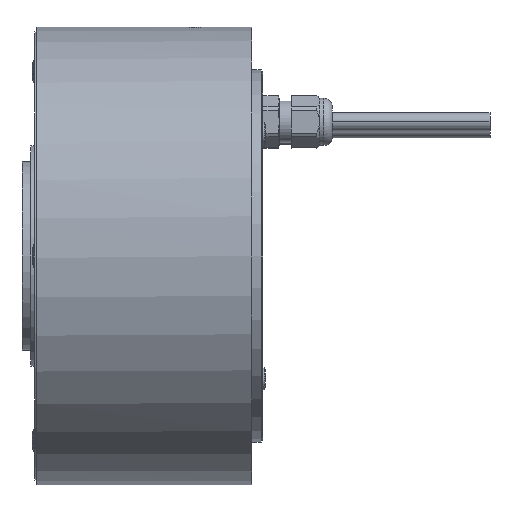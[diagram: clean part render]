
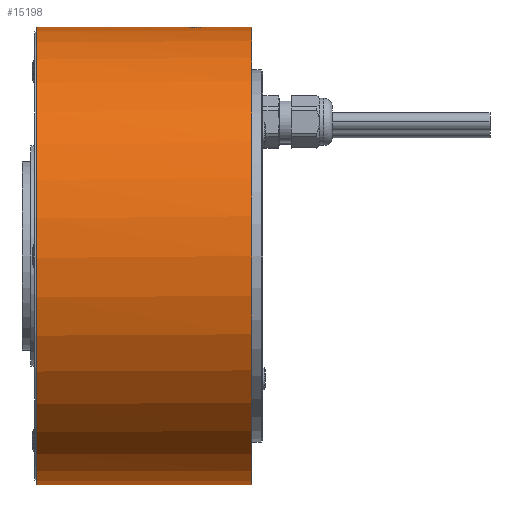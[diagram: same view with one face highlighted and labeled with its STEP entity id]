
A CAD part, left-side view. The second image highlights one B-rep face of the part: STEP entity #15198.
In plain terms, the highlighted cylindrical face has radius 72.5 mm (diameter 145 mm), a partial arc.
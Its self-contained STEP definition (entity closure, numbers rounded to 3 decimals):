
#20 = CARTESIAN_POINT ( 'NONE',  ( -1.703, -47.249, 72.48 ) ) ;
#139 = DIRECTION ( 'NONE',  ( 0., 0., 1. ) ) ;
#195 = CARTESIAN_POINT ( 'NONE',  ( -2.705, -52.272, 72.45 ) ) ;
#629 = AXIS2_PLACEMENT_3D ( 'NONE', #19944, #14770, #14653 ) ;
#1084 = CARTESIAN_POINT ( 'NONE',  ( -1.25, -0.2, 72.489 ) ) ;
#1653 = CARTESIAN_POINT ( 'NONE',  ( -2.247, -47.638, 72.465 ) ) ;
#1673 = ORIENTED_EDGE ( 'NONE', *, *, #17988, .T. ) ;
#2012 = VERTEX_POINT ( 'NONE', #21359 ) ;
#2189 = CARTESIAN_POINT ( 'NONE',  ( 0., -71.2, 0. ) ) ;
#2298 = VERTEX_POINT ( 'NONE', #8170 ) ;
#2829 = VERTEX_POINT ( 'NONE', #12028 ) ;
#3032 = ORIENTED_EDGE ( 'NONE', *, *, #3521, .F. ) ;
#3221 = ORIENTED_EDGE ( 'NONE', *, *, #17998, .F. ) ;
#3246 = CARTESIAN_POINT ( 'NONE',  ( -0.222, -46.8, 72.5 ) ) ;
#3327 = CARTESIAN_POINT ( 'NONE',  ( -2.562, -52.447, 72.455 ) ) ;
#3461 = CARTESIAN_POINT ( 'NONE',  ( -0.881, -46.909, 72.495 ) ) ;
#3521 = EDGE_CURVE ( 'NONE', #6247, #2829, #14882, .T. ) ;
#3670 = CARTESIAN_POINT ( 'NONE',  ( -2.951, -48.497, 72.44 ) ) ;
#4209 = AXIS2_PLACEMENT_3D ( 'NONE', #11528, #6767, #18329 ) ;
#4364 = ORIENTED_EDGE ( 'NONE', *, *, #9172, .T. ) ;
#4955 = CARTESIAN_POINT ( 'NONE',  ( -2.56, -47.952, 72.455 ) ) ;
#4978 = LINE ( 'NONE', #13425, #9918 ) ;
#5040 = CARTESIAN_POINT ( 'NONE',  ( -2.077, -52.901, 72.47 ) ) ;
#5415 = DIRECTION ( 'NONE',  ( 0., 1., 0. ) ) ;
#5553 = CARTESIAN_POINT ( 'NONE',  ( 0., -71.2, 72.5 ) ) ;
#5856 = EDGE_CURVE ( 'NONE', #14555, #6247, #9162, .T. ) ;
#6032 = VERTEX_POINT ( 'NONE', #10012 ) ;
#6154 = CARTESIAN_POINT ( 'NONE',  ( -3.292, -51.08, 72.425 ) ) ;
#6247 = VERTEX_POINT ( 'NONE', #13883 ) ;
#6248 = CARTESIAN_POINT ( 'NONE',  ( -3.056, -51.707, 72.436 ) ) ;
#6458 = ORIENTED_EDGE ( 'NONE', *, *, #12098, .T. ) ;
#6692 = CARTESIAN_POINT ( 'NONE',  ( -3.4, -50.2, 72.42 ) ) ;
#6767 = DIRECTION ( 'NONE',  ( 0., 1., 0. ) ) ;
#6906 = CARTESIAN_POINT ( 'NONE',  ( -2.704, -48.127, 72.45 ) ) ;
#7163 = B_SPLINE_CURVE_WITH_KNOTS ( 'NONE', 3,
 ( #18457, #3246, #16414, #3461, #10057, #11873, #20, #9843, #1653, #4955, #6906, #3670, #14997, #16627, #8239, #9963, #8563, #6692 ),
 .UNSPECIFIED., .F., .F.,
 ( 4, 2, 2, 2, 2, 2, 2, 2, 4 ),
 ( 0.011, 0.011, 0.012, 0.013, 0.013, 0.014, 0.015, 0.015, 0.016 ),
 .UNSPECIFIED. ) ;
#7771 = CARTESIAN_POINT ( 'NONE',  ( -3.4, -50.2, 72.42 ) ) ;
#8110 = AXIS2_PLACEMENT_3D ( 'NONE', #14724, #14915, #139 ) ;
#8170 = CARTESIAN_POINT ( 'NONE',  ( 0., -53.6, 72.5 ) ) ;
#8239 = CARTESIAN_POINT ( 'NONE',  ( -3.292, -49.32, 72.425 ) ) ;
#8313 = CARTESIAN_POINT ( 'NONE',  ( 0., -53.6, 72.5 ) ) ;
#8563 = CARTESIAN_POINT ( 'NONE',  ( -3.4, -49.976, 72.42 ) ) ;
#9037 = VERTEX_POINT ( 'NONE', #15889 ) ;
#9162 = LINE ( 'NONE', #14010, #15364 ) ;
#9172 = EDGE_CURVE ( 'NONE', #9037, #9512, #4978, .T. ) ;
#9512 = VERTEX_POINT ( 'NONE', #17010 ) ;
#9801 = ORIENTED_EDGE ( 'NONE', *, *, #20275, .F. ) ;
#9843 = CARTESIAN_POINT ( 'NONE',  ( -2.075, -47.498, 72.471 ) ) ;
#9918 = VECTOR ( 'NONE', #11792, 1000. ) ;
#9963 = CARTESIAN_POINT ( 'NONE',  ( -3.378, -49.755, 72.421 ) ) ;
#10012 = CARTESIAN_POINT ( 'NONE',  ( -1.25, -0.2, 72.489 ) ) ;
#10057 = CARTESIAN_POINT ( 'NONE',  ( -1.096, -46.974, 72.492 ) ) ;
#10593 = EDGE_LOOP ( 'NONE', ( #21081, #9801, #6458, #3221, #14263, #4364, #18337, #1673, #3032 ) ) ;
#10723 = FACE_OUTER_BOUND ( 'NONE', #10593, .T. ) ;
#10907 = LINE ( 'NONE', #1084, #15375 ) ;
#10950 = VECTOR ( 'NONE', #17453, 1000. ) ;
#11024 = DIRECTION ( 'NONE',  ( 0., 1., 0. ) ) ;
#11442 = CARTESIAN_POINT ( 'NONE',  ( -1.508, -53.255, 72.485 ) ) ;
#11528 = CARTESIAN_POINT ( 'NONE',  ( 0., 0., 0. ) ) ;
#11662 = CARTESIAN_POINT ( 'NONE',  ( -0.895, -53.51, 72.496 ) ) ;
#11792 = DIRECTION ( 'NONE',  ( 0., 1., 0. ) ) ;
#11873 = CARTESIAN_POINT ( 'NONE',  ( -1.505, -47.143, 72.485 ) ) ;
#11932 = CARTESIAN_POINT ( 'NONE',  ( 0., -68.2, 72.5 ) ) ;
#12028 = CARTESIAN_POINT ( 'NONE',  ( -1.25, 0., 72.489 ) ) ;
#12029 = DIRECTION ( 'NONE',  ( 0., 0., 1. ) ) ;
#12098 = EDGE_CURVE ( 'NONE', #16923, #2298, #17345, .T. ) ;
#12278 = DIRECTION ( 'NONE',  ( 0., 1., 0. ) ) ;
#12617 = EDGE_CURVE ( 'NONE', #6032, #9512, #18793, .T. ) ;
#12798 = CARTESIAN_POINT ( 'NONE',  ( 0., -68.2, -72.5 ) ) ;
#12836 = CARTESIAN_POINT ( 'NONE',  ( -2.951, -51.902, 72.44 ) ) ;
#13425 = CARTESIAN_POINT ( 'NONE',  ( 0., -71.2, 72.5 ) ) ;
#13883 = CARTESIAN_POINT ( 'NONE',  ( 0., 0., -72.5 ) ) ;
#14010 = CARTESIAN_POINT ( 'NONE',  ( 0., -71.2, -72.5 ) ) ;
#14070 = CYLINDRICAL_SURFACE ( 'NONE', #17741, 72.5 ) ;
#14263 = ORIENTED_EDGE ( 'NONE', *, *, #16018, .F. ) ;
#14352 = CARTESIAN_POINT ( 'NONE',  ( -3.4, -50.424, 72.42 ) ) ;
#14555 = VERTEX_POINT ( 'NONE', #12798 ) ;
#14653 = DIRECTION ( 'NONE',  ( 0., 0., -1. ) ) ;
#14724 = CARTESIAN_POINT ( 'NONE',  ( 0., -0.2, 0. ) ) ;
#14770 = DIRECTION ( 'NONE',  ( 0., -1., 0. ) ) ;
#14882 = CIRCLE ( 'NONE', #4209, 72.5 ) ;
#14915 = DIRECTION ( 'NONE',  ( 0., 1., 0. ) ) ;
#14997 = CARTESIAN_POINT ( 'NONE',  ( -3.055, -48.692, 72.436 ) ) ;
#15009 = B_SPLINE_CURVE_WITH_KNOTS ( 'NONE', 3,
 ( #7771, #14352, #20951, #6154, #21047, #6248, #12836, #195, #3327, #16607, #5040, #18238, #11442, #11662, #19958, #8313 ),
 .UNSPECIFIED., .F., .F.,
 ( 4, 2, 2, 2, 2, 2, 2, 4 ),
 ( 0.016, 0.017, 0.017, 0.018, 0.019, 0.019, 0.02, 0.021 ),
 .UNSPECIFIED. ) ;
#15198 = ADVANCED_FACE ( 'NONE', ( #10723 ), #14070, .T. ) ;
#15364 = VECTOR ( 'NONE', #12278, 1000. ) ;
#15375 = VECTOR ( 'NONE', #11024, 1000. ) ;
#15889 = CARTESIAN_POINT ( 'NONE',  ( 0., -46.8, 72.5 ) ) ;
#16018 = EDGE_CURVE ( 'NONE', #9037, #2012, #7163, .T. ) ;
#16414 = CARTESIAN_POINT ( 'NONE',  ( -0.443, -46.822, 72.499 ) ) ;
#16607 = CARTESIAN_POINT ( 'NONE',  ( -2.248, -52.76, 72.465 ) ) ;
#16627 = CARTESIAN_POINT ( 'NONE',  ( -3.226, -49.104, 72.428 ) ) ;
#16923 = VERTEX_POINT ( 'NONE', #11932 ) ;
#17010 = CARTESIAN_POINT ( 'NONE',  ( 0., -0.2, 72.5 ) ) ;
#17345 = LINE ( 'NONE', #5553, #10950 ) ;
#17453 = DIRECTION ( 'NONE',  ( 0., 1., 0. ) ) ;
#17741 = AXIS2_PLACEMENT_3D ( 'NONE', #2189, #5415, #12029 ) ;
#17988 = EDGE_CURVE ( 'NONE', #6032, #2829, #10907, .T. ) ;
#17998 = EDGE_CURVE ( 'NONE', #2012, #2298, #15009, .T. ) ;
#18238 = CARTESIAN_POINT ( 'NONE',  ( -1.706, -53.149, 72.48 ) ) ;
#18329 = DIRECTION ( 'NONE',  ( 0., 0., 1. ) ) ;
#18337 = ORIENTED_EDGE ( 'NONE', *, *, #12617, .F. ) ;
#18457 = CARTESIAN_POINT ( 'NONE',  ( 0., -46.8, 72.5 ) ) ;
#18545 = CIRCLE ( 'NONE', #629, 72.5 ) ;
#18793 = CIRCLE ( 'NONE', #8110, 72.5 ) ;
#19944 = CARTESIAN_POINT ( 'NONE',  ( 0., -68.2, 0. ) ) ;
#19958 = CARTESIAN_POINT ( 'NONE',  ( -0.449, -53.6, 72.5 ) ) ;
#20275 = EDGE_CURVE ( 'NONE', #16923, #14555, #18545, .T. ) ;
#20951 = CARTESIAN_POINT ( 'NONE',  ( -3.378, -50.646, 72.421 ) ) ;
#21047 = CARTESIAN_POINT ( 'NONE',  ( -3.226, -51.295, 72.428 ) ) ;
#21081 = ORIENTED_EDGE ( 'NONE', *, *, #5856, .F. ) ;
#21359 = CARTESIAN_POINT ( 'NONE',  ( -3.4, -50.2, 72.42 ) ) ;
